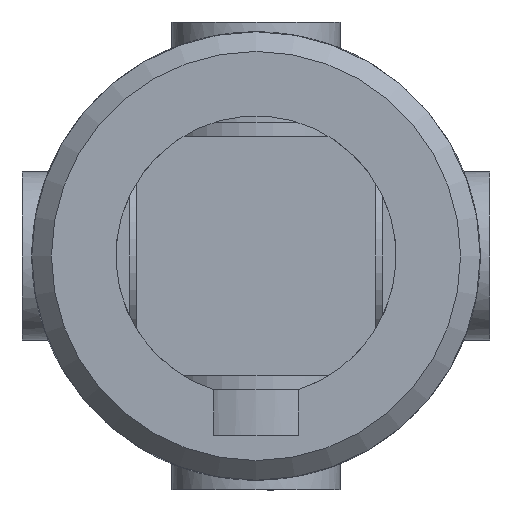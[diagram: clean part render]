
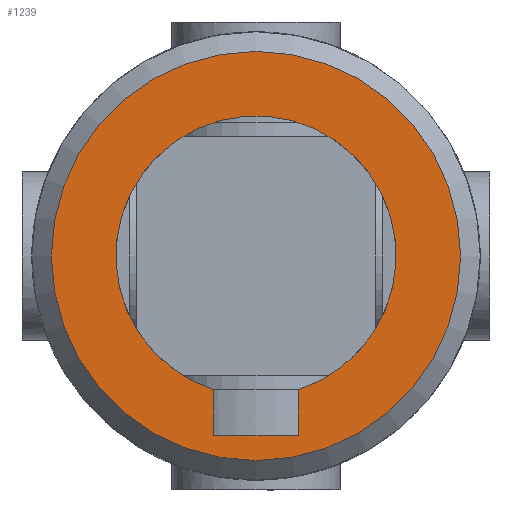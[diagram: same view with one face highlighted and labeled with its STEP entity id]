
A CAD part, front view. The second image highlights one B-rep face of the part: STEP entity #1239.
In plain terms, the highlighted planar face has unit normal (0, -1, 0).
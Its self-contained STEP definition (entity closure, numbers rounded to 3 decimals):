
#134=LINE('',#2193,#189);
#136=LINE('',#2199,#191);
#140=LINE('',#2211,#195);
#189=VECTOR('',#1601,3.);
#191=VECTOR('',#1607,1.63);
#195=VECTOR('',#1619,1.63);
#244=PLANE('',#1367);
#280=FACE_BOUND('',#444,.T.);
#342=FACE_OUTER_BOUND('',#443,.T.);
#443=EDGE_LOOP('',(#1069));
#444=EDGE_LOOP('',(#1070,#1071,#1072,#1073));
#509=CIRCLE('',#1353,5.);
#516=CIRCLE('',#1365,7.3);
#601=VERTEX_POINT('',#2190);
#602=VERTEX_POINT('',#2192);
#604=VERTEX_POINT('',#2198);
#608=VERTEX_POINT('',#2209);
#622=VERTEX_POINT('',#2310);
#748=EDGE_CURVE('',#602,#601,#134,.T.);
#751=EDGE_CURVE('',#604,#602,#136,.T.);
#757=EDGE_CURVE('',#601,#608,#140,.T.);
#766=EDGE_CURVE('',#608,#604,#509,.T.);
#778=EDGE_CURVE('',#622,#622,#516,.T.);
#1069=ORIENTED_EDGE('',*,*,#778,.F.);
#1070=ORIENTED_EDGE('',*,*,#757,.T.);
#1071=ORIENTED_EDGE('',*,*,#766,.T.);
#1072=ORIENTED_EDGE('',*,*,#751,.T.);
#1073=ORIENTED_EDGE('',*,*,#748,.T.);
#1239=ADVANCED_FACE('',(#342,#280),#244,.F.);
#1353=AXIS2_PLACEMENT_3D('',#2256,#1628,#1629);
#1365=AXIS2_PLACEMENT_3D('',#2311,#1653,#1654);
#1367=AXIS2_PLACEMENT_3D('',#2479,#1661,#1662);
#1601=DIRECTION('',(-1.,0.,0.));
#1607=DIRECTION('',(0.,0.,-1.));
#1619=DIRECTION('',(0.,0.,1.));
#1628=DIRECTION('center_axis',(0.,1.,0.));
#1629=DIRECTION('ref_axis',(-0.3,0.,0.954));
#1653=DIRECTION('center_axis',(0.,1.,0.));
#1654=DIRECTION('ref_axis',(1.,0.,0.));
#1661=DIRECTION('center_axis',(0.,1.,0.));
#1662=DIRECTION('ref_axis',(0.,0.,1.));
#2190=CARTESIAN_POINT('',(-1.5,-30.,-6.4));
#2192=CARTESIAN_POINT('',(1.5,-30.,-6.4));
#2193=CARTESIAN_POINT('',(0.75,-30.,-6.4));
#2198=CARTESIAN_POINT('',(1.5,-30.,-4.77));
#2199=CARTESIAN_POINT('',(1.5,-30.,-2.385));
#2209=CARTESIAN_POINT('',(-1.5,-30.,-4.77));
#2211=CARTESIAN_POINT('',(-1.5,-30.,-3.2));
#2256=CARTESIAN_POINT('Origin',(0.,-30.,0.));
#2310=CARTESIAN_POINT('',(-7.3,-30.,0.));
#2311=CARTESIAN_POINT('Origin',(0.,-30.,0.));
#2479=CARTESIAN_POINT('Origin',(0.,-30.,0.));
